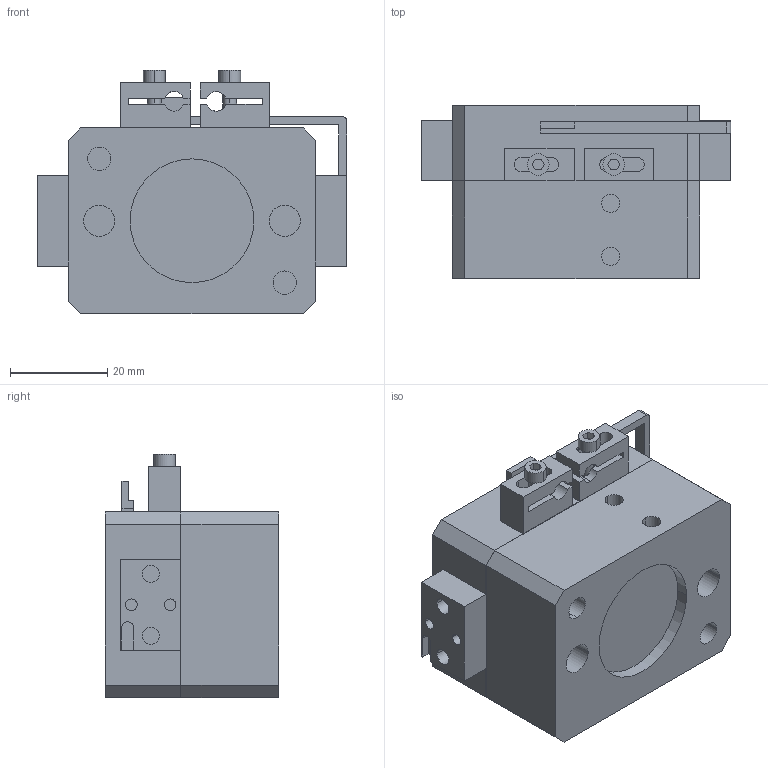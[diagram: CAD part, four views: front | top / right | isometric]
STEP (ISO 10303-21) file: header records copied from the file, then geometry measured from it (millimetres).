
FILE_DESCRIPTION (( 'STEP AP203' ), '1' );
FILE_NAME ('AGP-375 OPEN in MM.STEP', '2014-10-31T19:14:19', ( 'setup' ), ( '' ), 'SwSTEP 2.0', 'SolidWorks 2013', '' );
FILE_SCHEMA (( 'CONFIG_CONTROL_DESIGN' ));
Length unit declared in the file: millimetre
Products named in the file (11): WGL50-JAW2; WGL50-S; WGL50-BOT. BODY; WGL50-SEN2; WGL50-SQ; AGP-375 OPEN in MM; WGL50-SEN1; WGL50-SQ2; WGL50-JAW1; WGL50-S2; WGL50-TOP BODY
Assembly tree (18 placements, depth 2):
  AGP-375 OPEN in MM
    WGL50-BOT. BODY
    WGL50-SQ
    WGL50-SEN1
    WGL50-SQ2
    WGL50-JAW1
    WGL50-S2  x8
    WGL50-TOP BODY
    WGL50-JAW2
    WGL50-S  x2
    WGL50-SEN2
Bounding box: 63.5 x 35.61 x 49.91 mm (x, y, z)
Volume: 65883.3 mm3; surface area: 26375.9 mm2
Topology: 18 solids, 18 shells, 375 faces, 872 edges, 580 vertices
Faces by surface type: plane 261, cylinder 114
Entity records: 9815 total; most frequent: CARTESIAN_POINT 1544, DIRECTION 1484, ORIENTED_EDGE 1360, EDGE_CURVE 680, AXIS2_PLACEMENT_3D 504, VECTOR 476, LINE 476, VERTEX_POINT 452
